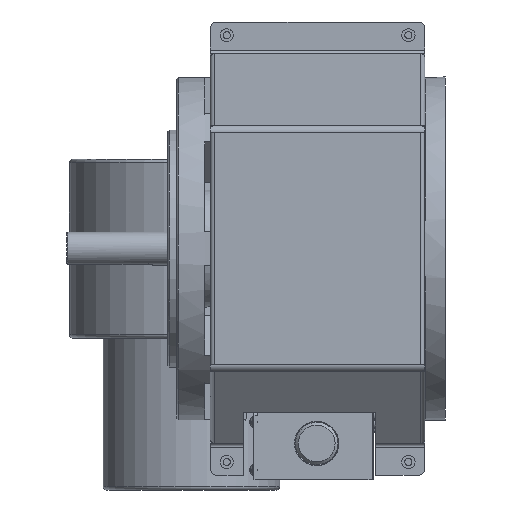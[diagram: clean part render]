
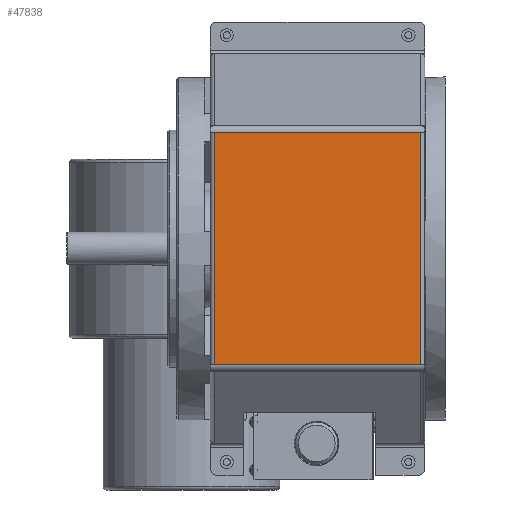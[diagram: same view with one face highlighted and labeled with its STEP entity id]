
A CAD part, left-side view. The second image highlights one B-rep face of the part: STEP entity #47838.
In plain terms, the highlighted planar face has unit normal (-1, 0, 0).
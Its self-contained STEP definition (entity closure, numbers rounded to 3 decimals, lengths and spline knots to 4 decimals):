
#2818=PLANE('',#51508);
#4332=FACE_OUTER_BOUND('',#7400,.T.);
#7400=EDGE_LOOP('',(#33823,#33824,#33825,#33826));
#10539=LINE('',#78672,#13403);
#10540=LINE('',#78674,#13404);
#10541=LINE('',#78676,#13405);
#10542=LINE('',#78677,#13406);
#13403=VECTOR('',#59764,39.3701);
#13404=VECTOR('',#59765,39.3701);
#13405=VECTOR('',#59766,39.3701);
#13406=VECTOR('',#59767,39.3701);
#20090=VERTEX_POINT('',#78642);
#20093=VERTEX_POINT('',#78649);
#20100=VERTEX_POINT('',#78673);
#20101=VERTEX_POINT('',#78675);
#25136=EDGE_CURVE('',#20090,#20093,#10539,.T.);
#25137=EDGE_CURVE('',#20093,#20100,#10540,.T.);
#25138=EDGE_CURVE('',#20100,#20101,#10541,.T.);
#25139=EDGE_CURVE('',#20101,#20090,#10542,.T.);
#33823=ORIENTED_EDGE('',*,*,#25136,.T.);
#33824=ORIENTED_EDGE('',*,*,#25137,.T.);
#33825=ORIENTED_EDGE('',*,*,#25138,.T.);
#33826=ORIENTED_EDGE('',*,*,#25139,.T.);
#47838=ADVANCED_FACE('',(#4332),#2818,.F.);
#51508=AXIS2_PLACEMENT_3D('',#78671,#59762,#59763);
#59762=DIRECTION('center_axis',(1.,0.,0.));
#59763=DIRECTION('ref_axis',(0.,1.,0.));
#59764=DIRECTION('',(0.,0.,-1.));
#59765=DIRECTION('',(0.,-1.,0.));
#59766=DIRECTION('',(0.,0.,1.));
#59767=DIRECTION('',(0.,1.,0.));
#78642=CARTESIAN_POINT('',(-3.9634,1.8673,2.1964));
#78649=CARTESIAN_POINT('',(-3.9634,1.8673,-2.1964));
#78671=CARTESIAN_POINT('Origin',(-3.9634,-0.0885,
0.));
#78672=CARTESIAN_POINT('',(-3.9634,1.8673,2.1964));
#78673=CARTESIAN_POINT('',(-3.9634,-2.0444,-2.1964));
#78674=CARTESIAN_POINT('',(-3.9634,1.9427,-2.1964));
#78675=CARTESIAN_POINT('',(-3.9634,-2.0444,2.1964));
#78676=CARTESIAN_POINT('',(-3.9634,-2.0444,-2.1964));
#78677=CARTESIAN_POINT('',(-3.9634,-2.1198,2.1964));
